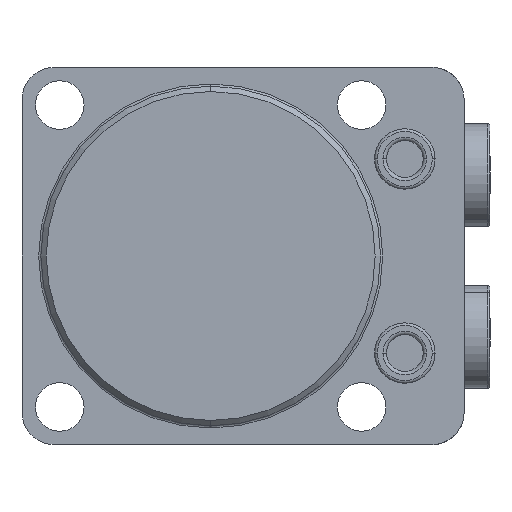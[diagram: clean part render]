
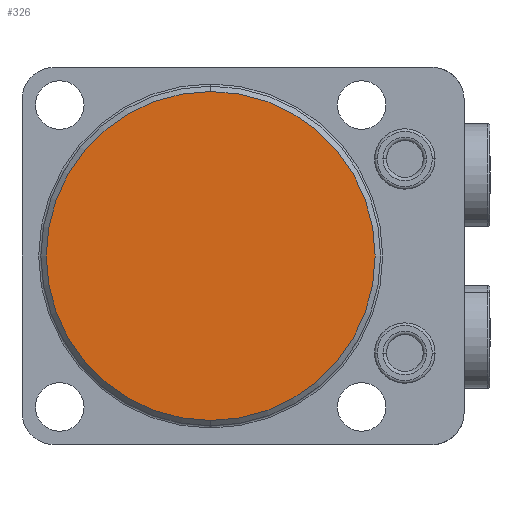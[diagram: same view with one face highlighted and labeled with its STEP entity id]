
A CAD part, front view. The second image highlights one B-rep face of the part: STEP entity #326.
In plain terms, the highlighted planar face has unit normal (0, -1, 0) as drawn and (0, 1, 0) by its records, which use the part's own axes.
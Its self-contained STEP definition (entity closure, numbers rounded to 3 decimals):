
#173=PLANE('',#2676);
#326=ADVANCED_FACE('',(#532),#173,.T.);
#532=FACE_OUTER_BOUND('',#677,.F.);
#677=EDGE_LOOP('',(#1223,#1224));
#875=CIRCLE('',#2640,30.5);
#897=CIRCLE('',#2675,30.5);
#1223=ORIENTED_EDGE('',*,*,#2083,.T.);
#1224=ORIENTED_EDGE('',*,*,#2022,.T.);
#1773=VERTEX_POINT('',#3956);
#1774=VERTEX_POINT('',#3957);
#2022=EDGE_CURVE('',#1773,#1774,#875,.T.);
#2083=EDGE_CURVE('',#1774,#1773,#897,.T.);
#2640=AXIS2_PLACEMENT_3D('',#3955,#3127,#3128);
#2675=AXIS2_PLACEMENT_3D('',#4085,#3231,#3232);
#2676=AXIS2_PLACEMENT_3D('',#4086,#3233,#3234);
#3127=DIRECTION('',(0.,-1.,0.));
#3128=DIRECTION('',(0.,0.,1.));
#3231=DIRECTION('',(0.,-1.,0.));
#3232=DIRECTION('',(0.,0.,1.));
#3233=DIRECTION('',(0.,1.,0.));
#3234=DIRECTION('',(0.,0.,1.));
#3955=CARTESIAN_POINT('',(0.,0.,0.));
#3956=CARTESIAN_POINT('',(0.,0.,-30.5));
#3957=CARTESIAN_POINT('',(0.,0.,30.5));
#4085=CARTESIAN_POINT('',(0.,0.,0.));
#4086=CARTESIAN_POINT('',(-35.,0.,35.));
